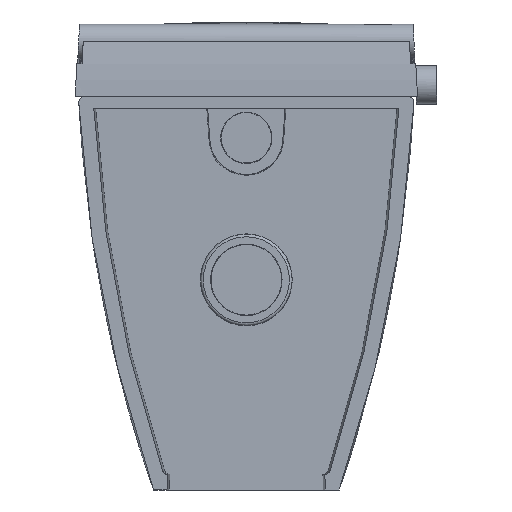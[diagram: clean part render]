
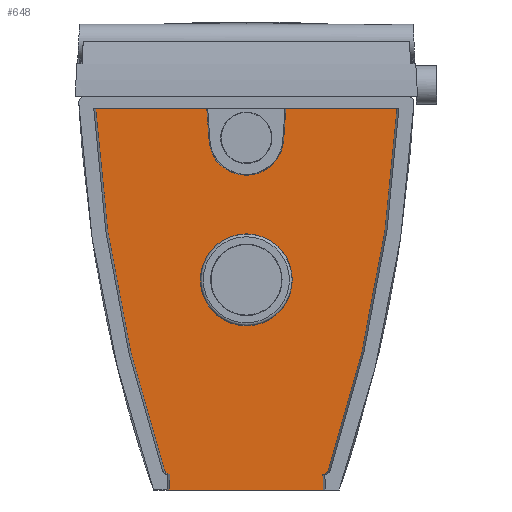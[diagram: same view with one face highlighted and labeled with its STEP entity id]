
A CAD part, left-side view. The second image highlights one B-rep face of the part: STEP entity #648.
In plain terms, the highlighted planar face has unit normal (-1, 0, 0).
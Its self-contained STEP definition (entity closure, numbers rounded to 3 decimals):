
#65=CIRCLE('',#3578,40.775);
#66=CIRCLE('',#3579,40.775);
#68=CIRCLE('',#3592,50.175);
#109=FACE_BOUND('',#1132,.T.);
#110=FACE_BOUND('',#1133,.T.);
#171=ELLIPSE('',#3549,6.001,6.);
#173=ELLIPSE('',#3552,6.001,6.);
#300=B_SPLINE_CURVE_WITH_KNOTS('',3,(#4683,#4684,#4685,#4686),
 .UNSPECIFIED.,.F.,.F.,(4,4),(0.,1.),.UNSPECIFIED.);
#301=B_SPLINE_CURVE_WITH_KNOTS('',3,(#5386,#5387,#5388,#5389,#5390,#5391,
#5392,#5393,#5394,#5395,#5396,#5397,#5398,#5399),.UNSPECIFIED.,.F.,.F.,
(4,2,2,2,2,2,4),(0.,0.021,0.252,0.482,
0.713,0.944,1.),.UNSPECIFIED.);
#305=B_SPLINE_CURVE_WITH_KNOTS('',3,(#5687,#5688,#5689,#5690,#5691,#5692,
#5693,#5694,#5695,#5696,#5697,#5698),.UNSPECIFIED.,.F.,.F.,(4,2,2,2,2,4),
(0.,0.056,0.287,0.518,0.979,
1.),.UNSPECIFIED.);
#648=ADVANCED_FACE('',(#109,#110),#822,.T.);
#822=PLANE('',#3593);
#1132=EDGE_LOOP('',(#1525,#1526,#1527,#1528,#1529,#1530,#1531,#1532,#1533,
#1534,#1535,#1536,#1537,#1538,#1539,#1540));
#1133=EDGE_LOOP('',(#1541));
#1525=ORIENTED_EDGE('',*,*,#2747,.F.);
#1526=ORIENTED_EDGE('',*,*,#2754,.F.);
#1527=ORIENTED_EDGE('',*,*,#2759,.F.);
#1528=ORIENTED_EDGE('',*,*,#2842,.F.);
#1529=ORIENTED_EDGE('',*,*,#2847,.T.);
#1530=ORIENTED_EDGE('',*,*,#2853,.F.);
#1531=ORIENTED_EDGE('',*,*,#2849,.T.);
#1532=ORIENTED_EDGE('',*,*,#2829,.F.);
#1533=ORIENTED_EDGE('',*,*,#2765,.F.);
#1534=ORIENTED_EDGE('',*,*,#2761,.F.);
#1535=ORIENTED_EDGE('',*,*,#2751,.F.);
#1536=ORIENTED_EDGE('',*,*,#2841,.T.);
#1537=ORIENTED_EDGE('',*,*,#2838,.F.);
#1538=ORIENTED_EDGE('',*,*,#2745,.F.);
#1539=ORIENTED_EDGE('',*,*,#2840,.F.);
#1540=ORIENTED_EDGE('',*,*,#2836,.T.);
#1541=ORIENTED_EDGE('',*,*,#2855,.T.);
#2391=VERTEX_POINT('',#4681);
#2392=VERTEX_POINT('',#4682);
#2393=VERTEX_POINT('',#5370);
#2395=VERTEX_POINT('',#5373);
#2398=VERTEX_POINT('',#5379);
#2399=VERTEX_POINT('',#5381);
#2401=VERTEX_POINT('',#5400);
#2404=VERTEX_POINT('',#5682);
#2406=VERTEX_POINT('',#5699);
#2409=VERTEX_POINT('',#5968);
#2449=VERTEX_POINT('',#12198);
#2454=VERTEX_POINT('',#12212);
#2455=VERTEX_POINT('',#12216);
#2456=VERTEX_POINT('',#12223);
#2459=VERTEX_POINT('',#12231);
#2461=VERTEX_POINT('',#12237);
#2463=VERTEX_POINT('',#12252);
#2745=EDGE_CURVE('',#2392,#2391,#300,.T.);
#2747=EDGE_CURVE('',#2393,#2395,#3279,.T.);
#2751=EDGE_CURVE('',#2398,#2399,#3283,.T.);
#2754=EDGE_CURVE('',#2401,#2393,#301,.T.);
#2759=EDGE_CURVE('',#2404,#2401,#171,.T.);
#2761=EDGE_CURVE('',#2399,#2406,#305,.T.);
#2765=EDGE_CURVE('',#2406,#2409,#173,.T.);
#2829=EDGE_CURVE('',#2409,#2449,#3292,.T.);
#2836=EDGE_CURVE('',#2454,#2395,#3297,.T.);
#2838=EDGE_CURVE('',#2391,#2455,#65,.T.);
#2840=EDGE_CURVE('',#2454,#2392,#66,.T.);
#2841=EDGE_CURVE('',#2398,#2455,#3300,.T.);
#2842=EDGE_CURVE('',#2456,#2404,#3301,.T.);
#2847=EDGE_CURVE('',#2456,#2459,#3306,.T.);
#2849=EDGE_CURVE('',#2461,#2449,#3308,.T.);
#2853=EDGE_CURVE('',#2461,#2459,#3312,.T.);
#2855=EDGE_CURVE('',#2463,#2463,#68,.T.);
#3279=LINE('',#5372,#3410);
#3283=LINE('',#5380,#3414);
#3292=LINE('',#12197,#3423);
#3297=LINE('',#12211,#3428);
#3300=LINE('',#12220,#3431);
#3301=LINE('',#12222,#3432);
#3306=LINE('',#12232,#3437);
#3308=LINE('',#12236,#3439);
#3312=LINE('',#12243,#3443);
#3410=VECTOR('',#3771,1.);
#3414=VECTOR('',#3775,1.);
#3423=VECTOR('',#3834,1.);
#3428=VECTOR('',#3847,1.);
#3431=VECTOR('',#3858,1.);
#3432=VECTOR('',#3861,1.);
#3437=VECTOR('',#3868,1.);
#3439=VECTOR('',#3872,1.);
#3443=VECTOR('',#3880,1.);
#3549=AXIS2_PLACEMENT_3D('',#5684,#3781,#3782);
#3552=AXIS2_PLACEMENT_3D('',#5967,#3788,#3789);
#3578=AXIS2_PLACEMENT_3D('',#12215,#3851,#3852);
#3579=AXIS2_PLACEMENT_3D('',#12218,#3854,#3855);
#3592=AXIS2_PLACEMENT_3D('',#12251,#3893,#3894);
#3593=AXIS2_PLACEMENT_3D('',#12253,#3895,#3896);
#3771=DIRECTION('',(0.,-1.,0.));
#3775=DIRECTION('',(0.,-1.,0.));
#3781=DIRECTION('',(1.,0.,0.));
#3782=DIRECTION('',(0.,-1.,0.));
#3788=DIRECTION('',(1.,0.,0.));
#3789=DIRECTION('',(0.,1.,0.));
#3834=DIRECTION('',(0.,1.,0.));
#3847=DIRECTION('',(0.,0.07,0.998));
#3851=DIRECTION('',(-1.,0.,0.));
#3852=DIRECTION('',(0.,0.,1.));
#3854=DIRECTION('',(-1.,0.,0.));
#3855=DIRECTION('',(0.,0.,1.));
#3858=DIRECTION('',(0.,0.07,-0.998));
#3861=DIRECTION('',(0.,1.,0.));
#3868=DIRECTION('',(0.,0.035,-0.999));
#3872=DIRECTION('',(0.,0.035,0.999));
#3880=DIRECTION('',(0.,1.,0.));
#3893=DIRECTION('',(1.,0.,0.));
#3894=DIRECTION('',(0.,0.,1.));
#3895=DIRECTION('',(-1.,0.,0.));
#3896=DIRECTION('',(0.,0.,1.));
#4681=CARTESIAN_POINT('',(120.,30.241,-72.852));
#4682=CARTESIAN_POINT('',(120.,34.014,-67.987));
#4683=CARTESIAN_POINT('',(120.,34.014,-67.987));
#4684=CARTESIAN_POINT('',(120.,33.946,-69.756));
#4685=CARTESIAN_POINT('',(120.,32.669,-71.424));
#4686=CARTESIAN_POINT('',(120.,30.241,-72.852));
#5370=CARTESIAN_POINT('',(120.,164.551,-13.5));
#5372=CARTESIAN_POINT('',(120.,-173.334,-13.5));
#5373=CARTESIAN_POINT('',(120.,43.113,-13.5));
#5379=CARTESIAN_POINT('',(120.,-43.113,-13.5));
#5380=CARTESIAN_POINT('',(120.,-173.334,-13.5));
#5381=CARTESIAN_POINT('',(120.,-164.552,-13.5));
#5386=CARTESIAN_POINT('',(120.,89.379,-408.896));
#5387=CARTESIAN_POINT('',(120.,90.258,-406.258));
#5388=CARTESIAN_POINT('',(120.,91.13,-403.617));
#5389=CARTESIAN_POINT('',(120.,101.653,-371.441));
#5390=CARTESIAN_POINT('',(120.,110.402,-341.604));
#5391=CARTESIAN_POINT('',(120.,126.029,-281.487));
#5392=CARTESIAN_POINT('',(120.,132.917,-251.18));
#5393=CARTESIAN_POINT('',(120.,144.812,-190.194));
#5394=CARTESIAN_POINT('',(120.,149.813,-159.526));
#5395=CARTESIAN_POINT('',(120.,157.916,-97.934));
#5396=CARTESIAN_POINT('',(120.,161.017,-67.006));
#5397=CARTESIAN_POINT('',(120.,163.681,-28.516));
#5398=CARTESIAN_POINT('',(120.,164.144,-21.009));
#5399=CARTESIAN_POINT('',(120.,164.551,-13.5));
#5400=CARTESIAN_POINT('',(120.,89.379,-408.896));
#5682=CARTESIAN_POINT('',(120.,83.685,-413.));
#5684=CARTESIAN_POINT('',(120.,83.685,-407.));
#5687=CARTESIAN_POINT('',(120.,-164.552,-13.5));
#5688=CARTESIAN_POINT('',(120.,-164.145,-21.011));
#5689=CARTESIAN_POINT('',(120.,-163.682,-28.52));
#5690=CARTESIAN_POINT('',(120.,-161.019,-67.02));
#5691=CARTESIAN_POINT('',(120.,-157.918,-97.956));
#5692=CARTESIAN_POINT('',(120.,-149.813,-159.558));
#5693=CARTESIAN_POINT('',(120.,-144.809,-190.227));
#5694=CARTESIAN_POINT('',(120.,-126.973,-281.684));
#5695=CARTESIAN_POINT('',(120.,-111.307,-341.934));
#5696=CARTESIAN_POINT('',(120.,-91.129,-403.621));
#5697=CARTESIAN_POINT('',(120.,-90.257,-406.26));
#5698=CARTESIAN_POINT('',(120.,-89.379,-408.897));
#5699=CARTESIAN_POINT('',(120.,-89.379,-408.897));
#5967=CARTESIAN_POINT('',(120.,-83.685,-407.));
#5968=CARTESIAN_POINT('',(120.,-83.685,-413.));
#12197=CARTESIAN_POINT('',(120.,250.,-413.));
#12198=CARTESIAN_POINT('',(120.,-83.646,-413.));
#12211=CARTESIAN_POINT('',(120.,40.386,-52.491));
#12212=CARTESIAN_POINT('',(120.,40.676,-48.344));
#12215=CARTESIAN_POINT('',(120.,0.,-45.5));
#12216=CARTESIAN_POINT('',(120.,-40.676,-48.344));
#12218=CARTESIAN_POINT('',(120.,0.,-45.5));
#12220=CARTESIAN_POINT('',(120.,-40.386,-52.491));
#12222=CARTESIAN_POINT('',(120.,250.,-413.));
#12223=CARTESIAN_POINT('',(120.,83.646,-413.));
#12231=CARTESIAN_POINT('',(120.,84.24,-430.));
#12232=CARTESIAN_POINT('',(120.,80.908,-334.573));
#12236=CARTESIAN_POINT('',(120.,-87.612,-526.573));
#12237=CARTESIAN_POINT('',(120.,-84.239,-430.));
#12243=CARTESIAN_POINT('',(120.,250.,-430.));
#12251=CARTESIAN_POINT('',(120.,0.,-200.5));
#12252=CARTESIAN_POINT('',(120.,0.,-150.325));
#12253=CARTESIAN_POINT('',(120.,250.,120.));
